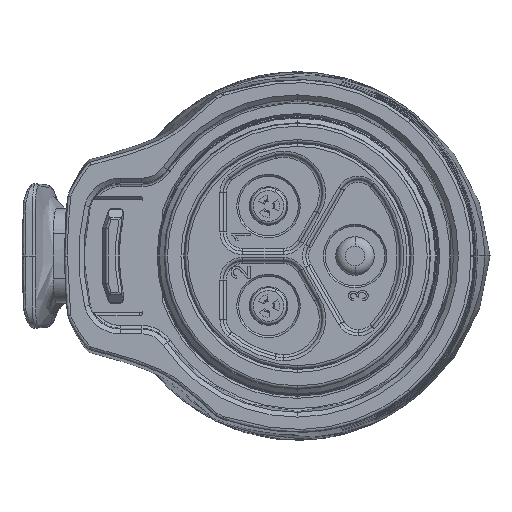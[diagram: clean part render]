
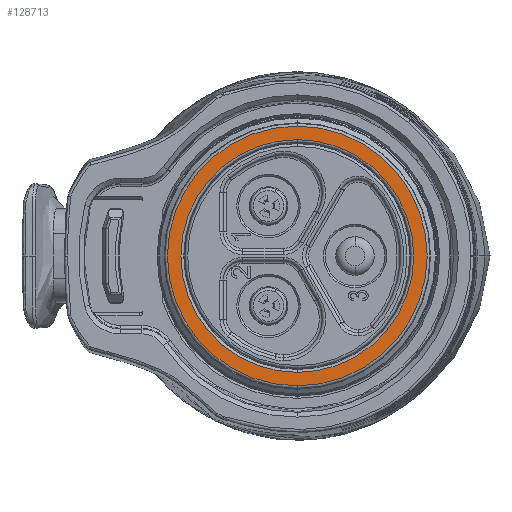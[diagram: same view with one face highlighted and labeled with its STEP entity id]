
A CAD part, left-side view. The second image highlights one B-rep face of the part: STEP entity #128713.
In plain terms, the highlighted planar face has unit normal (-1, 0, 0).
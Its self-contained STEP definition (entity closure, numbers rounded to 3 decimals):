
#393 = DIRECTION ( 'NONE',  ( 1., 0., 0. ) ) ;
#6449 = CARTESIAN_POINT ( 'NONE',  ( 0., 0., 13.502 ) ) ;
#7175 = AXIS2_PLACEMENT_3D ( 'NONE', #41786, #31786, #73083 ) ;
#9407 = ORIENTED_EDGE ( 'NONE', *, *, #66680, .T. ) ;
#11837 = EDGE_CURVE ( 'NONE', #23634, #85954, #63717, .T. ) ;
#14193 = AXIS2_PLACEMENT_3D ( 'NONE', #81068, #121881, #101482 ) ;
#19751 = CARTESIAN_POINT ( 'NONE',  ( 0., 0., -12.101 ) ) ;
#19945 = CIRCLE ( 'NONE', #124657, 13.502 ) ;
#23634 = VERTEX_POINT ( 'NONE', #19751 ) ;
#31786 = DIRECTION ( 'NONE',  ( 1., 0., 0. ) ) ;
#36008 = AXIS2_PLACEMENT_3D ( 'NONE', #126333, #44684, #117254 ) ;
#36514 = DIRECTION ( 'NONE',  ( -1., 0., 0. ) ) ;
#40271 = EDGE_LOOP ( 'NONE', ( #133923, #127645 ) ) ;
#41786 = CARTESIAN_POINT ( 'NONE',  ( 0., 0., 0. ) ) ;
#44684 = DIRECTION ( 'NONE',  ( 1., 0., 0. ) ) ;
#46458 = AXIS2_PLACEMENT_3D ( 'NONE', #114248, #393, #92037 ) ;
#49999 = CARTESIAN_POINT ( 'NONE',  ( 0., 0., 12.101 ) ) ;
#51816 = VERTEX_POINT ( 'NONE', #6449 ) ;
#61835 = ORIENTED_EDGE ( 'NONE', *, *, #11837, .T. ) ;
#63717 = CIRCLE ( 'NONE', #46458, 12.101 ) ;
#64468 = CIRCLE ( 'NONE', #14193, 13.502 ) ;
#66680 = EDGE_CURVE ( 'NONE', #85954, #23634, #128695, .T. ) ;
#70326 = FACE_OUTER_BOUND ( 'NONE', #40271, .T. ) ;
#73083 = DIRECTION ( 'NONE',  ( 0., 0., -1. ) ) ;
#76856 = FACE_BOUND ( 'NONE', #90315, .T. ) ;
#77403 = DIRECTION ( 'NONE',  ( 0., 0., -1. ) ) ;
#79080 = VERTEX_POINT ( 'NONE', #132922 ) ;
#81068 = CARTESIAN_POINT ( 'NONE',  ( 0., 0., 0. ) ) ;
#85954 = VERTEX_POINT ( 'NONE', #49999 ) ;
#86864 = PLANE ( 'NONE',  #36008 ) ;
#90315 = EDGE_LOOP ( 'NONE', ( #61835, #9407 ) ) ;
#92037 = DIRECTION ( 'NONE',  ( 0., 0., -1. ) ) ;
#100368 = EDGE_CURVE ( 'NONE', #51816, #79080, #64468, .T. ) ;
#101482 = DIRECTION ( 'NONE',  ( 0., 0., -1. ) ) ;
#106905 = CARTESIAN_POINT ( 'NONE',  ( 0., 0., 0. ) ) ;
#114248 = CARTESIAN_POINT ( 'NONE',  ( 0., 0., 0. ) ) ;
#117254 = DIRECTION ( 'NONE',  ( 0., 0., -1. ) ) ;
#121881 = DIRECTION ( 'NONE',  ( -1., 0., 0. ) ) ;
#124657 = AXIS2_PLACEMENT_3D ( 'NONE', #106905, #36514, #77403 ) ;
#126333 = CARTESIAN_POINT ( 'NONE',  ( 0., 11.8, 0. ) ) ;
#127645 = ORIENTED_EDGE ( 'NONE', *, *, #100368, .T. ) ;
#128363 = EDGE_CURVE ( 'NONE', #79080, #51816, #19945, .T. ) ;
#128695 = CIRCLE ( 'NONE', #7175, 12.101 ) ;
#128713 = ADVANCED_FACE ( 'NONE', ( #76856, #70326 ), #86864, .F. ) ;
#132922 = CARTESIAN_POINT ( 'NONE',  ( 0., 0., -13.502 ) ) ;
#133923 = ORIENTED_EDGE ( 'NONE', *, *, #128363, .T. ) ;
